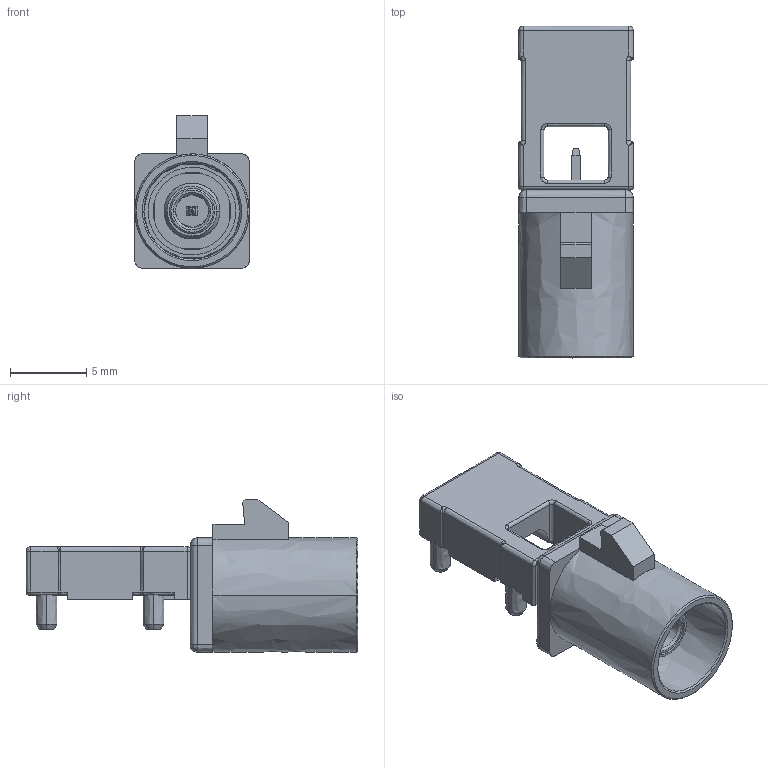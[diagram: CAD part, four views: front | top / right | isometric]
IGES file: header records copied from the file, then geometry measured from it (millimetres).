
Start section:  PTC IGES file: crc5001-6601f.igs
Global section: file name: crc5001-6601f.igs; native system: Creo Parametric by PTC Inc.; preprocessor: 2020454; author: smknikai; organization: Unknown; date: 20220312.235311; units: millimetre
Bounding box: 7.5 x 21.75 x 10 mm (x, y, z)
Volume: 508.5 mm3; surface area: 1011.4 mm2
Topology: 1 solids, 1 shells, 328 faces, 836 edges, 501 vertices
Faces by surface type: bspline 328
